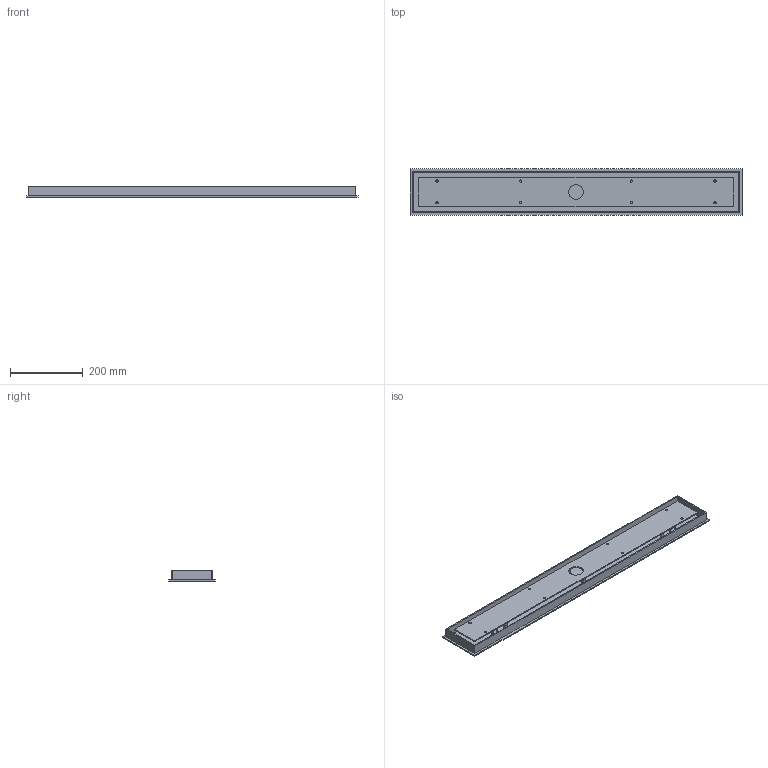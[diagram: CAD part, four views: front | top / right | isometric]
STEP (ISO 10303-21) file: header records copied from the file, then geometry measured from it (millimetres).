
FILE_DESCRIPTION(/* description */ (''),/* implementation_level */ '2;1');
FILE_NAME(/* name */ 'SkLO_Linear_Canopy_3''_MCL03_3D',/* time_stamp */ '2024-10-18T16:22:43+02:00',/* author */ (''),/* organization */ (''),/* preprocessor_version */ 'ST-DEVELOPER v16.5',/* originating_system */ 'Rhino 7.34',/* authorisation */ '');
FILE_SCHEMA (('CONFIG_CONTROL_DESIGN'));
Length unit declared in the file: millimetre
Products named in the file (1): Document
Bounding box: 915 x 127 x 28.3 mm (x, y, z)
Volume: 706547.7 mm3; surface area: 490617.4 mm2
Topology: 2 solids, 8 shells, 169 faces, 426 edges, 281 vertices
Faces by surface type: cylinder 67, plane 64, bspline 38
Full cylindrical faces by diameter (mm): 3 x16, 5.249 x6, 6 x12, 6.2 x14, 10 x6, 40 x1
Entity records: 7679 total; most frequent: CARTESIAN_POINT 4892, ORIENTED_EDGE 808, EDGE_CURVE 407, VERTEX_POINT 262, EDGE_LOOP 229, B_SPLINE_CURVE_WITH_KNOTS 173, ADVANCED_FACE 169, FACE_OUTER_BOUND 169
